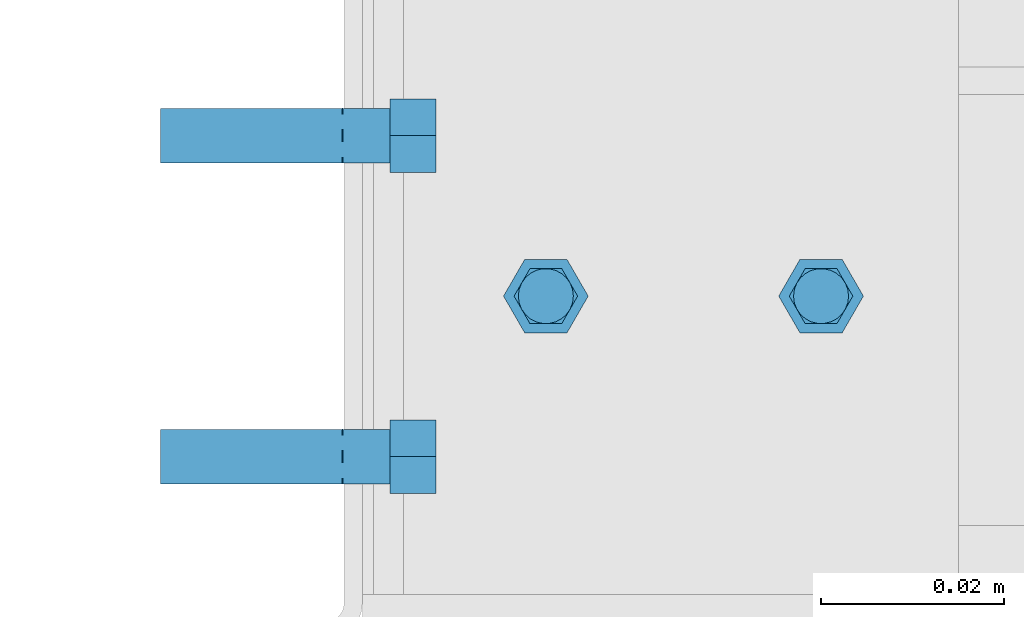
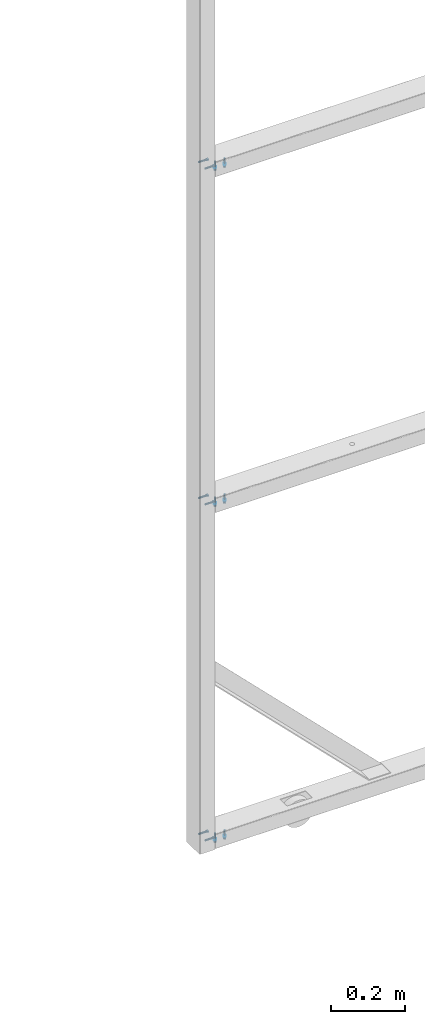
# One storey, part 72 of 91: 9 mechanical fasteners, 1 element without a shape of its own.
"""IFC2X3 building model written with IfcOpenShell, lengths in millimetres."""

from ifc_helpers import new_model, si_unit, frame, origin_with_axes, origin_2d_with_axis, place, context, subcontext, project, spatial, polyline, circle, outline, extrude, source, transform, mapped, material, type_object, element, aggregate, save


model = new_model("IFC2X3")

# Units and contexts
model_context = context("Model", 3, precision=1e-05, world=origin_with_axes())
body_context = subcontext(model_context, "Body", "Model", "MODEL_VIEW")
ifc_project = project(units=[si_unit("LENGTHUNIT", "METRE", prefix="MILLI"), si_unit("AREAUNIT", "SQUARE_METRE"), si_unit("VOLUMEUNIT", "CUBIC_METRE"), si_unit("MASSUNIT", "GRAM", prefix="KILO"), si_unit("TIMEUNIT", "SECOND"), si_unit("PLANEANGLEUNIT", "RADIAN"), si_unit("SOLIDANGLEUNIT", "STERADIAN"), si_unit("THERMODYNAMICTEMPERATUREUNIT", "DEGREE_CELSIUS"), si_unit("LUMINOUSINTENSITYUNIT", "LUMEN")], contexts=[model_context])

# Site, building, storey
site_placement = place(None, origin_with_axes())
site = spatial("IfcSite", under=ifc_project, at=site_placement, Name="Undefined", CompositionType="ELEMENT")
building_placement = place(site_placement, origin_with_axes())
building = spatial("IfcBuilding", under=site, at=building_placement, Name="Undefined", CompositionType="ELEMENT")
storey_placement = place(building_placement, origin_with_axes())
storey = spatial("IfcBuildingStorey", under=building, at=storey_placement, Name="Undefined", CompositionType="ELEMENT", Elevation=0.0)

# Assembly, mechanical fasteners
assembly_placement = place(storey_placement, origin_with_axes())
assembly = element("IfcElementAssembly", 1, at=assembly_placement, inside=storey, Name="Sliding Door Beam", AssemblyPlace="NOTDEFINED", PredefinedType="RIGID_FRAME")
ifc_material = material(Name="TEK_11TPIM")
discrete_accessory_type = type_object("IfcDiscreteAccessoryType", Name="Bolt assembly")
shared_shape_1 = source(origin_with_axes(), body_context, "Body", "SweptSolid", [
    extrude(circle(Radius=3.0, at=origin_2d_with_axis()), frame((0.0, 6.10000000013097, 0.0), z_axis=(0.0, 1.0, 0.0), x_axis=(1.0, 0.0, 0.0)), (0.0, 0.0, 1.0), 3.0),
    extrude(circle(Radius=3.0, at=origin_2d_with_axis()), frame((0.0, 8.9, 0.0), z_axis=(0.0, 1.0, 0.0), x_axis=(1.0, 0.0, 0.0)), (0.0, 0.0, 1.0), 2.1),
    extrude(outline(polyline([(4.61880215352, 0.0), (2.30940107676, 4.00000000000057), (-2.30940107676, 4.00000000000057), (-4.61880215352, 0.0), (-2.30940107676, -4.00000000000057), (2.30940107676, -4.00000000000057), (4.61880215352, 0.0)])), frame((0.0, 1.00000000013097, 0.0), z_axis=(0.0, 1.0, 0.0), x_axis=(1.0, 0.0, 0.0)), (0.0, 0.0, 1.0), 5.0),
    extrude(circle(Radius=3.0, at=origin_2d_with_axis()), frame((0.0, 6.00000000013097, 0.0), z_axis=(0.0, 1.0, 0.0), x_axis=(1.0, 0.0, 0.0)), (0.0, 0.0, 1.0), 25.0),
    extrude(circle(Radius=3.0, at=origin_2d_with_axis()), frame((0.0, 11.0, 0.0), z_axis=(0.0, 1.0, 0.0), x_axis=(1.0, 0.0, 0.0)), (0.0, 0.0, 1.0), 0.1),
    extrude(outline(polyline([(3.46410161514, 0.0), (1.73205080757, 3.00000000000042), (-1.73205080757, 3.00000000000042), (-3.46410161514, 0.0), (-1.73205080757, -3.00000000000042), (1.73205080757, -3.00000000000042), (3.46410161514, 0.0)])), frame((0.0, 11.1000000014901, 0.0), z_axis=(0.0, 1.0, 0.0), x_axis=(1.0, 0.0, 0.0)), (0.0, 0.0, 1.0), 0.1),
])
mechanical_fastener_1_placement = place(assembly_placement, frame((-113579.79, 93380.0, 8.0), z_axis=(0.0, 1.0, 0.0), x_axis=(0.0, 0.0, -1.0)))
mechanical_fastener_1 = element("IfcMechanicalFastener", 2, at=mechanical_fastener_1_placement, type_object=discrete_accessory_type, material=ifc_material, Name="Bolt assembly", NominalDiameter=6.0, NominalLength=25.0, context=body_context, shape_type="MappedRepresentation", body=[
    mapped(shared_shape_1, transform((0.0, 0.0, -17.5))),
    mapped(shared_shape_1, transform((0.0, 0.0, 17.5))),
])
mechanical_fastener_2_placement = place(assembly_placement, frame((-113579.79, 93380.0, 1122.33666666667), z_axis=(0.0, 1.0, 0.0), x_axis=(0.0, 0.0, -1.0)))
mechanical_fastener_2 = element("IfcMechanicalFastener", 3, at=mechanical_fastener_2_placement, type_object=discrete_accessory_type, material=ifc_material, Name="Bolt assembly", NominalDiameter=6.0, NominalLength=25.0, context=body_context, shape_type="MappedRepresentation", body=[
    mapped(shared_shape_1, transform((0.0, 0.0, -17.5))),
    mapped(shared_shape_1, transform((0.0, 0.0, 17.5))),
])
mechanical_fastener_3_placement = place(assembly_placement, frame((-113579.79, 93380.0, 2236.66333333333), z_axis=(0.0, 1.0, 0.0), x_axis=(0.0, 0.0, -1.0)))
mechanical_fastener_3 = element("IfcMechanicalFastener", 4, at=mechanical_fastener_3_placement, type_object=discrete_accessory_type, material=ifc_material, Name="Bolt assembly", NominalDiameter=6.0, NominalLength=25.0, context=body_context, shape_type="MappedRepresentation", body=[
    mapped(shared_shape_1, transform((0.0, 0.0, -17.5))),
    mapped(shared_shape_1, transform((0.0, 0.0, 17.5))),
])
shared_shape_2 = source(origin_with_axes(), body_context, "Body", "SweptSolid", [
    extrude(circle(Radius=3.0, at=origin_2d_with_axis()), frame((0.0, 0.1, 0.0), z_axis=(0.0, 1.0, 0.0), x_axis=(1.0, 0.0, 0.0)), (0.0, 0.0, 1.0), 2.0),
    extrude(circle(Radius=3.0, at=origin_2d_with_axis()), frame((0.0, 2.90000000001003, 0.0), z_axis=(0.0, 1.0, 0.0), x_axis=(1.0, 0.0, 0.0)), (0.0, 0.0, 1.0), 3.1),
    extrude(outline(polyline([(4.61880215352, 0.0), (2.30940107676, 4.00000000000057), (-2.30940107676, 4.00000000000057), (-4.61880215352, 0.0), (-2.30940107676, -4.00000000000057), (2.30940107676, -4.00000000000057), (4.61880215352, 0.0)])), frame((0.0, -5.0, 0.0), z_axis=(0.0, 1.0, 0.0), x_axis=(1.0, 0.0, 0.0)), (0.0, 0.0, 1.0), 5.0),
    extrude(circle(Radius=3.0, at=origin_2d_with_axis()), frame((0.0, 0.0, 0.0), z_axis=(0.0, 1.0, 0.0), x_axis=(1.0, 0.0, 0.0)), (0.0, 0.0, 1.0), 25.0),
    extrude(circle(Radius=3.0, at=origin_2d_with_axis()), frame((0.0, 6.00000000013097, 0.0), z_axis=(0.0, 1.0, 0.0), x_axis=(1.0, 0.0, 0.0)), (0.0, 0.0, 1.0), 0.1),
    extrude(outline(polyline([(3.46410161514, 0.0), (1.73205080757, 3.00000000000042), (-1.73205080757, 3.00000000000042), (-3.46410161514, 0.0), (-1.73205080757, -3.00000000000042), (1.73205080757, -3.00000000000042), (3.46410161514, 0.0)])), frame((0.0, 6.10000000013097, 0.0), z_axis=(0.0, 1.0, 0.0), x_axis=(1.0, 0.0, 0.0)), (0.0, 0.0, 1.0), 0.1),
])
mechanical_fastener_4_placement = place(assembly_placement, frame((-113568.79, 93380.0, -17.0), z_axis=(0.0, -1.0, 0.0), x_axis=(1.0, 0.0, 0.0)))
mechanical_fastener_4 = element("IfcMechanicalFastener", 5, at=mechanical_fastener_4_placement, type_object=discrete_accessory_type, material=ifc_material, Name="Bolt assembly", NominalDiameter=6.0, NominalLength=25.0, context=body_context, shape_type="MappedRepresentation", body=[
    mapped(shared_shape_2, transform((0.0, 0.0, 0.0))),
    mapped(shared_shape_2, transform((30.0, 0.0, 0.0))),
])
mechanical_fastener_5_placement = place(assembly_placement, frame((-113568.79, 93380.0, 1097.33666666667), z_axis=(0.0, -1.0, 0.0), x_axis=(1.0, 0.0, 0.0)))
mechanical_fastener_5 = element("IfcMechanicalFastener", 6, at=mechanical_fastener_5_placement, type_object=discrete_accessory_type, material=ifc_material, Name="Bolt assembly", NominalDiameter=6.0, NominalLength=25.0, context=body_context, shape_type="MappedRepresentation", body=[
    mapped(shared_shape_2, transform((0.0, 0.0, 0.0))),
    mapped(shared_shape_2, transform((30.0, 0.0, 0.0))),
])
mechanical_fastener_6_placement = place(assembly_placement, frame((-113568.79, 93380.0, 2211.66333333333), z_axis=(0.0, -1.0, 0.0), x_axis=(1.0, 0.0, 0.0)))
mechanical_fastener_6 = element("IfcMechanicalFastener", 7, at=mechanical_fastener_6_placement, type_object=discrete_accessory_type, material=ifc_material, Name="Bolt assembly", NominalDiameter=6.0, NominalLength=25.0, context=body_context, shape_type="MappedRepresentation", body=[
    mapped(shared_shape_2, transform((0.0, 0.0, 0.0))),
    mapped(shared_shape_2, transform((30.0, 0.0, 0.0))),
])
shared_shape_3 = source(origin_with_axes(), body_context, "Body", "SweptSolid", [
    extrude(circle(Radius=3.0, at=origin_2d_with_axis()), frame((0.0, 2.00000000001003, 0.0), z_axis=(0.0, 1.0, 0.0), x_axis=(1.0, 0.0, 0.0)), (0.0, 0.0, 1.0), 3.1),
])
mechanical_fastener_7_placement = place(assembly_placement, frame((-113568.79, 93380.0, -16.0), z_axis=(0.0, -1.0, 0.0), x_axis=(1.0, 0.0, 0.0)))
mechanical_fastener_7 = element("IfcMechanicalFastener", 8, at=mechanical_fastener_7_placement, type_object=discrete_accessory_type, material=ifc_material, Name="Bolt assembly", NominalDiameter=6.0, NominalLength=8.0, context=body_context, shape_type="MappedRepresentation", body=[
    mapped(shared_shape_3, transform((0.0, 0.0, 0.0))),
    mapped(shared_shape_3, transform((30.0, 0.0, 0.0))),
])
mechanical_fastener_8_placement = place(assembly_placement, frame((-113568.79, 93380.0, 1098.33666666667), z_axis=(0.0, -1.0, 0.0), x_axis=(1.0, 0.0, 0.0)))
mechanical_fastener_8 = element("IfcMechanicalFastener", 9, at=mechanical_fastener_8_placement, type_object=discrete_accessory_type, material=ifc_material, Name="Bolt assembly", NominalDiameter=6.0, NominalLength=8.0, context=body_context, shape_type="MappedRepresentation", body=[
    mapped(shared_shape_3, transform((0.0, 0.0, 0.0))),
    mapped(shared_shape_3, transform((30.0, 0.0, 0.0))),
])
mechanical_fastener_9_placement = place(assembly_placement, frame((-113568.79, 93380.0, 2212.66333333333), z_axis=(0.0, -1.0, 0.0), x_axis=(1.0, 0.0, 0.0)))
mechanical_fastener_9 = element("IfcMechanicalFastener", 10, at=mechanical_fastener_9_placement, type_object=discrete_accessory_type, material=ifc_material, Name="Bolt assembly", NominalDiameter=6.0, NominalLength=8.0, context=body_context, shape_type="MappedRepresentation", body=[
    mapped(shared_shape_3, transform((0.0, 0.0, 0.0))),
    mapped(shared_shape_3, transform((30.0, 0.0, 0.0))),
])
aggregate(assembly, [mechanical_fastener_1, mechanical_fastener_7, mechanical_fastener_4, mechanical_fastener_2, mechanical_fastener_8, mechanical_fastener_5, mechanical_fastener_3, mechanical_fastener_9, mechanical_fastener_6])

save(model, "model.ifc")
